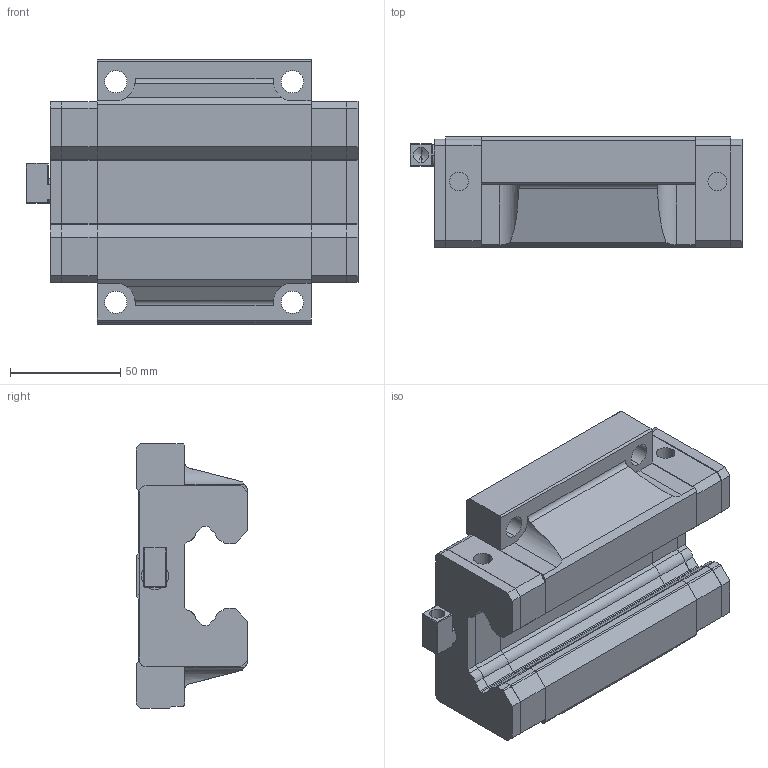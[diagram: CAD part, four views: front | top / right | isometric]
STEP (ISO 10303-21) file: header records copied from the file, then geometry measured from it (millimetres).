
FILE_DESCRIPTION (( 'STEP AP203' ), '1' );
FILE_NAME ('SGW45CA.STEP', '2025-06-27T06:23:24', ( 'Owner' ), ( 'Organization' ), 'SwSTEP 2.0', 'SolidWorks 2020', '' );
FILE_SCHEMA (( 'CONFIG_CONTROL_DESIGN' ));
Length unit declared in the file: millimetre
Products named in the file (1): SGW45CA
Bounding box: 150.4 x 50.5 x 120 mm (x, y, z)
Volume: 513352.3 mm3; surface area: 89560.3 mm2
Topology: 7 solids, 7 shells, 448 faces, 1161 edges, 739 vertices
Faces by surface type: plane 274, cylinder 129, cone 44, torus 1
Entity records: 13658 total; most frequent: CARTESIAN_POINT 2490, ORIENTED_EDGE 2318, DIRECTION 2314, EDGE_CURVE 1159, LINE 814, VECTOR 814, AXIS2_PLACEMENT_3D 750, VERTEX_POINT 739
